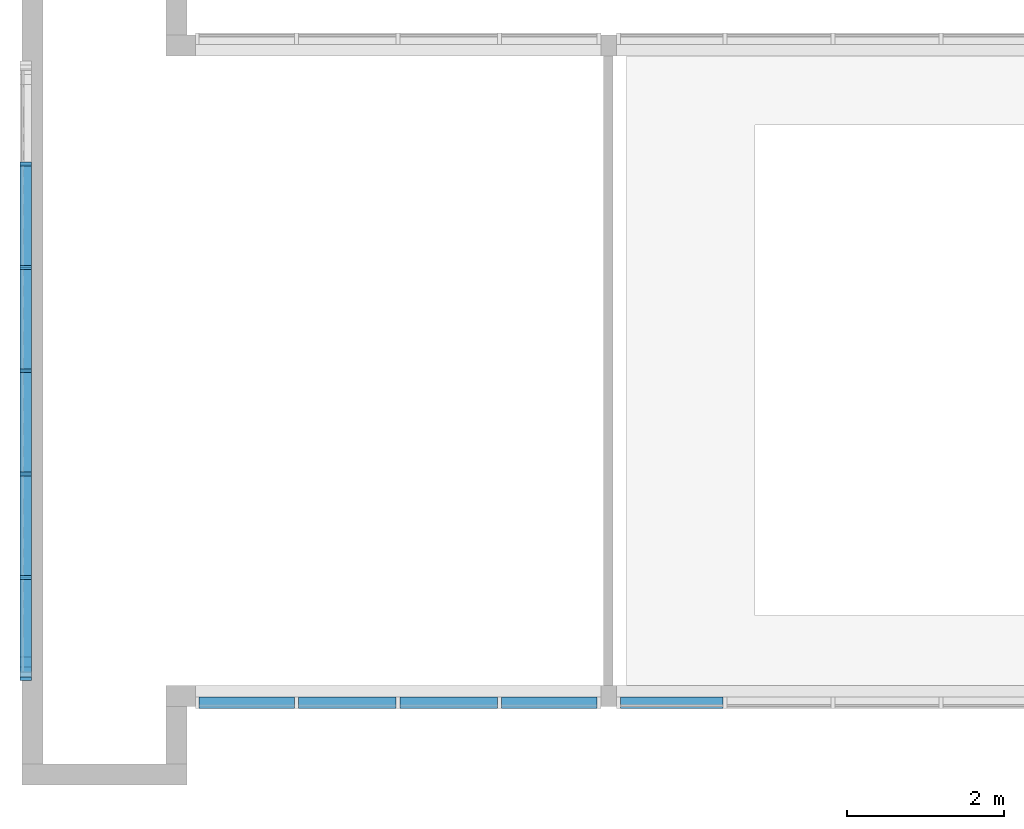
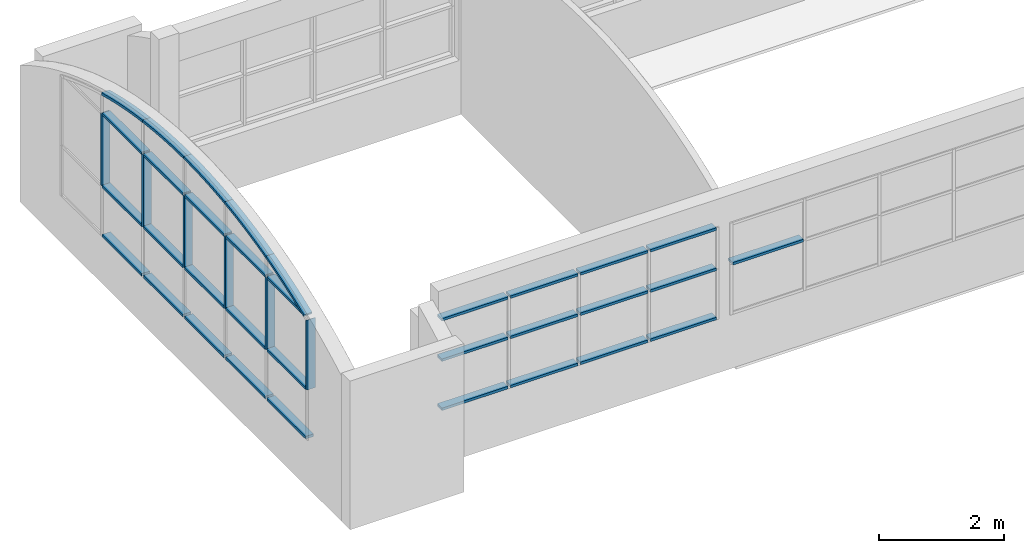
# One storey, part 1 of 14: 39 members, 3 elements without a shape of their own.
"""IFC2X3 building model written with IfcOpenShell, lengths in metres."""

from ifc_helpers import new_model, entity, si_unit, converted_unit, frame, frame_2d, origin, origin_2d_with_axis, place, context, project, spatial, polyline, circle_curve, parameter, trimmed, segment, composite_curve, rectangle, outline, extrude, source, transform, mapped, material, type_object, type_shapes, element, aggregate, save


model = new_model("IFC2X3")

# Units and contexts
model_context = context("Model", 3, precision=1e-09, world=origin())
plan_context = context("Plan", 3, precision=1e-09, world=origin())
ifc_project = project(units=[si_unit("LENGTHUNIT", "METRE"), si_unit("AREAUNIT", "SQUARE_METRE"), si_unit("VOLUMEUNIT", "CUBIC_METRE"), converted_unit("PLANEANGLEUNIT", "DEGREE", entity("IfcRatioMeasure", 0.01745329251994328), si_unit("PLANEANGLEUNIT", "RADIAN"), dimensions=[0, 0, 0, 0, 0, 0, 0]), si_unit("TIMEUNIT", "SECOND")], contexts=[model_context, plan_context])

# Site, building, storey
site_placement = place(None, origin())
site = spatial("IfcSite", under=ifc_project, at=site_placement, Name="Default", CompositionType="ELEMENT")
building_placement = place(site_placement, origin())
building = spatial("IfcBuilding", under=site, at=building_placement, CompositionType="ELEMENT")
storey_placement = place(building_placement, frame((0.0, 0.0, 9.25000000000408)))
storey = spatial("IfcBuildingStorey", under=building, at=storey_placement, Name="Roof - Main", CompositionType="ELEMENT", Elevation=9.25000000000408)

# Curtain wall, members
curtain_wall_1_placement = place(storey_placement, origin())
curtain_wall_1 = element("IfcCurtainWall", 1, at=curtain_wall_1_placement, inside=storey, Name="Curtain Wall:Storefront", ObjectType="Curtain Wall:Storefront")
ifc_material = material(Name="Metal - Aluminium")
member_type_1 = type_object("IfcMemberType", Name="50 x 150mm", PredefinedType="MULLION")
shared_shape_1 = source(origin(), model_context, "Body", "SweptSolid", [
    extrude(rectangle(XDim=0.05, YDim=0.15, at=origin_2d_with_axis()), frame((0.0, 0.0, -1.269395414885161), z_axis=(0.0, 0.0, 1.0), x_axis=(-1.0, 0.0, 0.0)), (0.0, 0.0, 1.0), 1.26939541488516),
])
type_shapes(member_type_1, [shared_shape_1])
member_1_placement = place(storey_placement, frame((-40.99000000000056, 34.30879082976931, 2.053894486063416), z_axis=(0.0, 1.0, 0.0), x_axis=(0.0, 0.0, 1.0)))
member_1 = element("IfcMember", 2, at=member_1_placement, type_object=member_type_1, material=ifc_material, Name="Rectangular Mullion:50 x 150mm:50 x 150mm", ObjectType="50 x 150mm", context=model_context, shape_type="MappedRepresentation", body=[
    mapped(shared_shape_1, transform((0.0, 0.0, 0.0), scale=1.0)),
])
member_2_placement = place(storey_placement, frame((-40.99000000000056, 31.66999999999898, 2.053894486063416), z_axis=(0.0, 1.0, 0.0), x_axis=(0.0, 0.0, 1.0)))
member_2 = element("IfcMember", 3, at=member_2_placement, type_object=member_type_1, material=ifc_material, Name="Rectangular Mullion:50 x 150mm:50 x 150mm", ObjectType="50 x 150mm", context=model_context, shape_type="MappedRepresentation", body=[
    mapped(shared_shape_1, transform((0.0, 0.0, 0.0), scale=1.0)),
])
member_3_placement = place(storey_placement, frame((-40.99000000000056, 34.30879082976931, 3.467), z_axis=(0.0, 1.0, 0.0), x_axis=(0.0, 0.0, 1.0)))
member_3 = element("IfcMember", 4, at=member_3_placement, type_object=member_type_1, material=ifc_material, Name="Rectangular Mullion:50 x 150mm:50 x 150mm", ObjectType="50 x 150mm", context=model_context, shape_type="MappedRepresentation", body=[
    mapped(shared_shape_1, transform((0.0, 0.0, 0.0), scale=1.0)),
])
member_4_placement = place(storey_placement, frame((-40.99000000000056, 30.35060458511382, 2.053894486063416), z_axis=(0.0, 1.0, 0.0), x_axis=(0.0, 0.0, 1.0)))
member_4 = element("IfcMember", 5, at=member_4_placement, type_object=member_type_1, material=ifc_material, Name="Rectangular Mullion:50 x 150mm:50 x 150mm", ObjectType="50 x 150mm", context=model_context, shape_type="MappedRepresentation", body=[
    mapped(shared_shape_1, transform((0.0, 0.0, 0.0), scale=1.0)),
])
member_5_placement = place(storey_placement, frame((-40.99000000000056, 32.98939541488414, 2.053894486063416), z_axis=(0.0, 1.0, 0.0), x_axis=(0.0, 0.0, 1.0)))
member_5 = element("IfcMember", 6, at=member_5_placement, type_object=member_type_1, material=ifc_material, Name="Rectangular Mullion:50 x 150mm:50 x 150mm", ObjectType="50 x 150mm", context=model_context, shape_type="MappedRepresentation", body=[
    mapped(shared_shape_1, transform((0.0, 0.0, 0.0), scale=1.0)),
])
member_6_placement = place(storey_placement, frame((-40.99000000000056, 32.98939541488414, 3.467), z_axis=(0.0, 1.0, 0.0), x_axis=(0.0, 0.0, 1.0)))
member_6 = element("IfcMember", 7, at=member_6_placement, type_object=member_type_1, material=ifc_material, Name="Rectangular Mullion:50 x 150mm:50 x 150mm", ObjectType="50 x 150mm", context=model_context, shape_type="MappedRepresentation", body=[
    mapped(shared_shape_1, transform((0.0, 0.0, 0.0), scale=1.0)),
])
member_7_placement = place(storey_placement, frame((-40.99000000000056, 31.66999999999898, 3.467), z_axis=(0.0, 1.0, 0.0), x_axis=(0.0, 0.0, 1.0)))
member_7 = element("IfcMember", 8, at=member_7_placement, type_object=member_type_1, material=ifc_material, Name="Rectangular Mullion:50 x 150mm:50 x 150mm", ObjectType="50 x 150mm", context=model_context, shape_type="MappedRepresentation", body=[
    mapped(shared_shape_1, transform((0.0, 0.0, 0.0), scale=1.0)),
])
member_8_placement = place(storey_placement, frame((-40.99000000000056, 30.35060458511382, 3.467), z_axis=(0.0, 1.0, 0.0), x_axis=(0.0, 0.0, 1.0)))
member_8 = element("IfcMember", 9, at=member_8_placement, type_object=member_type_1, material=ifc_material, Name="Rectangular Mullion:50 x 150mm:50 x 150mm", ObjectType="50 x 150mm", context=model_context, shape_type="MappedRepresentation", body=[
    mapped(shared_shape_1, transform((0.0, 0.0, 0.0), scale=1.0)),
])
member_type_2 = type_object("IfcMemberType", Name="50 x 150mm", PredefinedType="MULLION")
shared_shape_2 = source(origin(), model_context, "Body", "SweptSolid", [
    extrude(rectangle(XDim=0.05, YDim=0.15, at=origin_2d_with_axis()), frame((0.0, 0.0, -1.413105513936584), z_axis=(0.0, 0.0, 1.0), x_axis=(-1.0, 0.0, 0.0)), (0.0, 0.0, 1.0), 1.413105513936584),
])
type_shapes(member_type_2, [shared_shape_2])
member_9_placement = place(storey_placement, frame((-40.99000000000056, 29.05620917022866, 2.053894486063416), z_axis=(0.0, 0.0, -1.0), x_axis=(0.0, 1.0, 0.0)))
member_9 = element("IfcMember", 10, at=member_9_placement, type_object=member_type_2, material=ifc_material, Name="Rectangular Mullion:50 x 150mm:50 x 150mm", ObjectType="50 x 150mm", context=model_context, shape_type="MappedRepresentation", body=[
    mapped(shared_shape_2, transform((0.0, 0.0, 0.0), scale=1.0)),
])
member_10_placement = place(storey_placement, frame((-40.99000000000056, 30.37560458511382, 2.053894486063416), z_axis=(0.0, 0.0, -1.0), x_axis=(0.0, 1.0, 0.0)))
member_10 = element("IfcMember", 11, at=member_10_placement, type_object=member_type_2, material=ifc_material, Name="Rectangular Mullion:50 x 150mm:50 x 150mm", ObjectType="50 x 150mm", context=model_context, shape_type="MappedRepresentation", body=[
    mapped(shared_shape_2, transform((0.0, 0.0, 0.0), scale=1.0)),
])
member_11_placement = place(storey_placement, frame((-40.99000000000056, 34.33379082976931, 2.053894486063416), z_axis=(0.0, 0.0, -1.0), x_axis=(0.0, 1.0, 0.0)))
member_11 = element("IfcMember", 12, at=member_11_placement, type_object=member_type_2, material=ifc_material, Name="Rectangular Mullion:50 x 150mm:50 x 150mm", ObjectType="50 x 150mm", context=model_context, shape_type="MappedRepresentation", body=[
    mapped(shared_shape_2, transform((0.0, 0.0, 0.0), scale=1.0)),
])
member_12_placement = place(storey_placement, frame((-40.99000000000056, 33.01439541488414, 2.053894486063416), z_axis=(0.0, 0.0, -1.0), x_axis=(0.0, 1.0, 0.0)))
member_12 = element("IfcMember", 13, at=member_12_placement, type_object=member_type_2, material=ifc_material, Name="Rectangular Mullion:50 x 150mm:50 x 150mm", ObjectType="50 x 150mm", context=model_context, shape_type="MappedRepresentation", body=[
    mapped(shared_shape_2, transform((0.0, 0.0, 0.0), scale=1.0)),
])
member_13_placement = place(storey_placement, frame((-40.99000000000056, 31.69499999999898, 2.053894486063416), z_axis=(0.0, 0.0, -1.0), x_axis=(0.0, 1.0, 0.0)))
member_13 = element("IfcMember", 14, at=member_13_placement, type_object=member_type_2, material=ifc_material, Name="Rectangular Mullion:50 x 150mm:50 x 150mm", ObjectType="50 x 150mm", context=model_context, shape_type="MappedRepresentation", body=[
    mapped(shared_shape_2, transform((0.0, 0.0, 0.0), scale=1.0)),
])
member_type_3 = type_object("IfcMemberType", Name="50 x 150mm", PredefinedType="MULLION")
shared_shape_3 = source(origin(), model_context, "Body", "SweptSolid", [
    extrude(rectangle(XDim=0.05, YDim=0.15, at=origin_2d_with_axis()), frame((-0.025, 0.0, -1.269395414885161), z_axis=(0.0, 0.0, 1.0), x_axis=(-1.0, 0.0, 0.0)), (0.0, 0.0, 1.0), 1.26939541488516),
])
type_shapes(member_type_3, [shared_shape_3])
member_14_placement = place(storey_placement, frame((-40.99000000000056, 29.08120917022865, 1.067), z_axis=(0.0, -1.0, 0.0), x_axis=(0.0, 0.0, -1.0)))
member_14 = element("IfcMember", 15, at=member_14_placement, type_object=member_type_3, material=ifc_material, Name="Rectangular Mullion:50 x 150mm:50 x 150mm", ObjectType="50 x 150mm", context=model_context, shape_type="MappedRepresentation", body=[
    mapped(shared_shape_3, transform((0.0, 0.0, 0.0), scale=1.0)),
])
member_15_placement = place(storey_placement, frame((-40.99000000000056, 33.03939541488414, 1.067), z_axis=(0.0, -1.0, 0.0), x_axis=(0.0, 0.0, -1.0)))
member_15 = element("IfcMember", 16, at=member_15_placement, type_object=member_type_3, material=ifc_material, Name="Rectangular Mullion:50 x 150mm:50 x 150mm", ObjectType="50 x 150mm", context=model_context, shape_type="MappedRepresentation", body=[
    mapped(shared_shape_3, transform((0.0, 0.0, 0.0), scale=1.0)),
])
member_16_placement = place(storey_placement, frame((-40.99000000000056, 30.40060458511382, 1.067), z_axis=(0.0, -1.0, 0.0), x_axis=(0.0, 0.0, -1.0)))
member_16 = element("IfcMember", 17, at=member_16_placement, type_object=member_type_3, material=ifc_material, Name="Rectangular Mullion:50 x 150mm:50 x 150mm", ObjectType="50 x 150mm", context=model_context, shape_type="MappedRepresentation", body=[
    mapped(shared_shape_3, transform((0.0, 0.0, 0.0), scale=1.0)),
])
member_17_placement = place(storey_placement, frame((-40.99000000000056, 31.71999999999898, 1.067), z_axis=(0.0, -1.0, 0.0), x_axis=(0.0, 0.0, -1.0)))
member_17 = element("IfcMember", 18, at=member_17_placement, type_object=member_type_3, material=ifc_material, Name="Rectangular Mullion:50 x 150mm:50 x 150mm", ObjectType="50 x 150mm", context=model_context, shape_type="MappedRepresentation", body=[
    mapped(shared_shape_3, transform((0.0, 0.0, 0.0), scale=1.0)),
])

curtain_wall_2_placement = place(storey_placement, origin())
curtain_wall_2 = element("IfcCurtainWall", 19, at=curtain_wall_2_placement, inside=storey, Name="Curtain Wall:Storefront", ObjectType="Curtain Wall:Storefront")
member_type_4 = type_object("IfcMemberType", Name="50 x 150mm", PredefinedType="MULLION")
shared_shape_4 = source(origin(), model_context, "Body", "SweptSolid", [
    extrude(rectangle(XDim=0.05, YDim=0.15, at=origin_2d_with_axis()), frame((0.0, 0.0, -1.220000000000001), z_axis=(0.0, 0.0, 1.0), x_axis=(-1.0, 0.0, 0.0)), (0.0, 0.0, 1.0), 1.22),
])
type_shapes(member_type_4, [shared_shape_4])
member_18_placement = place(storey_placement, frame((-37.55600000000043, 27.45559600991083, 2.053894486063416), z_axis=(1.0, 0.0, 0.0), x_axis=(0.0, 0.0, 1.0)))
member_18 = element("IfcMember", 20, at=member_18_placement, type_object=member_type_4, material=ifc_material, Name="Rectangular Mullion:50 x 150mm:50 x 150mm", ObjectType="50 x 150mm", context=model_context, shape_type="MappedRepresentation", body=[
    mapped(shared_shape_4, transform((0.0, 0.0, 0.0), scale=1.0)),
])
member_19_placement = place(storey_placement, frame((-33.69600000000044, 27.45559600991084, 2.053894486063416), z_axis=(1.0, 0.0, 0.0), x_axis=(0.0, 0.0, 1.0)))
member_19 = element("IfcMember", 21, at=member_19_placement, type_object=member_type_4, material=ifc_material, Name="Rectangular Mullion:50 x 150mm:50 x 150mm", ObjectType="50 x 150mm", context=model_context, shape_type="MappedRepresentation", body=[
    mapped(shared_shape_4, transform((0.0, 0.0, 0.0), scale=1.0)),
])
member_type_5 = type_object("IfcMemberType", Name="50 x 150mm", PredefinedType="MULLION")
shared_shape_5 = source(origin(), model_context, "Body", "SweptSolid", [
    extrude(rectangle(XDim=0.05, YDim=0.15, at=origin_2d_with_axis()), frame((-0.025, 0.0, -1.220000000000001), z_axis=(0.0, 0.0, 1.0), x_axis=(-1.0, 0.0, 0.0)), (0.0, 0.0, 1.0), 1.22),
])
type_shapes(member_type_5, [shared_shape_5])
member_20_placement = place(storey_placement, frame((-37.55600000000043, 27.45559600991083, 2.867), z_axis=(1.0, 0.0, 0.0), x_axis=(0.0, 0.0, 1.0)))
member_20 = element("IfcMember", 22, at=member_20_placement, type_object=member_type_5, material=ifc_material, Name="Rectangular Mullion:50 x 150mm:50 x 150mm", ObjectType="50 x 150mm", context=model_context, shape_type="MappedRepresentation", body=[
    mapped(shared_shape_5, transform((0.0, 0.0, 0.0), scale=1.0)),
])
member_21_placement = place(storey_placement, frame((-33.69600000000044, 27.45559600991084, 2.867), z_axis=(1.0, 0.0, 0.0), x_axis=(0.0, 0.0, 1.0)))
member_21 = element("IfcMember", 23, at=member_21_placement, type_object=member_type_5, material=ifc_material, Name="Rectangular Mullion:50 x 150mm:50 x 150mm", ObjectType="50 x 150mm", context=model_context, shape_type="MappedRepresentation", body=[
    mapped(shared_shape_5, transform((0.0, 0.0, 0.0), scale=1.0)),
])
member_type_6 = type_object("IfcMemberType", Name="50 x 150mm", PredefinedType="MULLION")
shared_shape_6 = source(origin(), model_context, "Body", "SweptSolid", [
    extrude(rectangle(XDim=0.05, YDim=0.15, at=origin_2d_with_axis()), frame((-0.025, 0.0, -1.219999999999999), z_axis=(0.0, 0.0, 1.0), x_axis=(-1.0, 0.0, 0.0)), (0.0, 0.0, 1.0), 1.22),
])
type_shapes(member_type_6, [shared_shape_6])
member_22_placement = place(storey_placement, frame((-34.91600000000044, 27.45559600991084, 1.067), z_axis=(-1.0, 0.0, 0.0), x_axis=(0.0, 0.0, -1.0)))
member_22 = element("IfcMember", 24, at=member_22_placement, type_object=member_type_6, material=ifc_material, Name="Rectangular Mullion:50 x 150mm:50 x 150mm", ObjectType="50 x 150mm", context=model_context, shape_type="MappedRepresentation", body=[
    mapped(shared_shape_6, transform((0.0, 0.0, 0.0), scale=1.0)),
])
member_23_placement = place(storey_placement, frame((-38.77600000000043, 27.45559600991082, 1.067), z_axis=(-1.0, 0.0, 0.0), x_axis=(0.0, 0.0, -1.0)))
member_23 = element("IfcMember", 25, at=member_23_placement, type_object=member_type_6, material=ifc_material, Name="Rectangular Mullion:50 x 150mm:50 x 150mm", ObjectType="50 x 150mm", context=model_context, shape_type="MappedRepresentation", body=[
    mapped(shared_shape_6, transform((0.0, 0.0, 0.0), scale=1.0)),
])
member_type_7 = type_object("IfcMemberType", Name="50 x 150mm", PredefinedType="MULLION")
shared_shape_7 = source(origin(), model_context, "Body", "SweptSolid", [
    extrude(rectangle(XDim=0.05, YDim=0.15, at=origin_2d_with_axis()), frame((0.0, 0.0, -1.245000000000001), z_axis=(0.0, 0.0, 1.0), x_axis=(-1.0, 0.0, 0.0)), (0.0, 0.0, 1.0), 1.245),
])
type_shapes(member_type_7, [shared_shape_7])
member_24_placement = place(storey_placement, frame((-36.26100000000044, 27.45559600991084, 2.053894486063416), z_axis=(1.0, 0.0, 0.0), x_axis=(0.0, 0.0, 1.0)))
member_24 = element("IfcMember", 26, at=member_24_placement, type_object=member_type_7, material=ifc_material, Name="Rectangular Mullion:50 x 150mm:50 x 150mm", ObjectType="50 x 150mm", context=model_context, shape_type="MappedRepresentation", body=[
    mapped(shared_shape_7, transform((0.0, 0.0, 0.0), scale=1.0)),
])
member_25_placement = place(storey_placement, frame((-34.96600000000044, 27.45559600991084, 2.053894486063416), z_axis=(1.0, 0.0, 0.0), x_axis=(0.0, 0.0, 1.0)))
member_25 = element("IfcMember", 27, at=member_25_placement, type_object=member_type_7, material=ifc_material, Name="Rectangular Mullion:50 x 150mm:50 x 150mm", ObjectType="50 x 150mm", context=model_context, shape_type="MappedRepresentation", body=[
    mapped(shared_shape_7, transform((0.0, 0.0, 0.0), scale=1.0)),
])

# Member
member_type_8 = type_object("IfcMemberType", Name="50 x 150mm", PredefinedType="MULLION")
shared_shape_8 = source(origin(), model_context, "Body", "SweptSolid", [
    extrude(rectangle(XDim=0.05, YDim=0.15, at=origin_2d_with_axis()), frame((0.0, 0.0, -1.244395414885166), z_axis=(0.0, 0.0, 1.0), x_axis=(-1.0, 0.0, 0.0)), (0.0, 0.0, 1.0), 1.244395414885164),
])
type_shapes(member_type_8, [shared_shape_8])
member_26_placement = place(storey_placement, frame((-40.99000000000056, 29.03120917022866, 2.053894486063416), z_axis=(0.0, 1.0, 0.0), x_axis=(0.0, 0.0, 1.0)))
member_26 = element("IfcMember", 28, at=member_26_placement, type_object=member_type_8, material=ifc_material, Name="Rectangular Mullion:50 x 150mm:50 x 150mm", ObjectType="50 x 150mm", context=model_context, shape_type="MappedRepresentation", body=[
    mapped(shared_shape_8, transform((0.0, 0.0, 0.0), scale=1.0)),
])

# Curtain wall, member
curtain_wall_3_placement = place(storey_placement, origin())
curtain_wall_3 = element("IfcCurtainWall", 29, at=curtain_wall_3_placement, inside=storey, Name="Curtain Wall:Storefront", ObjectType="Curtain Wall:Storefront")
member_type_9 = type_object("IfcMemberType", Name="50 x 150mm", PredefinedType="MULLION")
shared_shape_9 = source(origin(), model_context, "Body", "SweptSolid", [
    extrude(rectangle(XDim=0.05, YDim=0.15, at=origin_2d_with_axis()), frame((0.0, 0.0, -1.305999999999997), z_axis=(0.0, 0.0, 1.0), x_axis=(-1.0, 0.0, 0.0)), (0.0, 0.0, 1.0), 1.305999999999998),
])
type_shapes(member_type_9, [shared_shape_9])
member_27_placement = place(storey_placement, frame((-32.08800000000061, 27.45559600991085, 2.053894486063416), z_axis=(1.0, 0.0, 0.0), x_axis=(0.0, 0.0, 1.0)))
member_27 = element("IfcMember", 30, at=member_27_placement, type_object=member_type_9, material=ifc_material, Name="Rectangular Mullion:50 x 150mm:50 x 150mm", ObjectType="50 x 150mm", context=model_context, shape_type="MappedRepresentation", body=[
    mapped(shared_shape_9, transform((0.0, 0.0, 0.0), scale=1.0)),
])
aggregate(curtain_wall_3, [member_27])

# Member
member_type_10 = type_object("IfcMemberType", Name="50 x 150mm", PredefinedType="MULLION")
shared_shape_10 = source(origin(), model_context, "Body", "SweptSolid", [
    extrude(rectangle(XDim=0.05, YDim=0.15, at=origin_2d_with_axis()), frame((-0.025, 0.0, -1.245000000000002), z_axis=(0.0, 0.0, 1.0), x_axis=(-1.0, 0.0, 0.0)), (0.0, 0.0, 1.0), 1.245),
])
type_shapes(member_type_10, [shared_shape_10])
member_28_placement = place(storey_placement, frame((-37.50600000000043, 27.45559600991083, 1.067), z_axis=(-1.0, 0.0, 0.0), x_axis=(0.0, 0.0, -1.0)))
member_28 = element("IfcMember", 31, at=member_28_placement, type_object=member_type_10, material=ifc_material, Name="Rectangular Mullion:50 x 150mm:50 x 150mm", ObjectType="50 x 150mm", context=model_context, shape_type="MappedRepresentation", body=[
    mapped(shared_shape_10, transform((0.0, 0.0, 0.0), scale=1.0)),
])

member_29_placement = place(storey_placement, frame((-36.21100000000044, 27.45559600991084, 1.067), z_axis=(-1.0, 0.0, 0.0), x_axis=(0.0, 0.0, -1.0)))
member_29 = element("IfcMember", 32, at=member_29_placement, type_object=member_type_10, material=ifc_material, Name="Rectangular Mullion:50 x 150mm:50 x 150mm", ObjectType="50 x 150mm", context=model_context, shape_type="MappedRepresentation", body=[
    mapped(shared_shape_10, transform((0.0, 0.0, 0.0), scale=1.0)),
])

member_type_11 = type_object("IfcMemberType", Name="50 x 150mm", PredefinedType="MULLION")
shared_shape_11 = source(origin(), model_context, "Body", "SweptSolid", [
    extrude(rectangle(XDim=0.05, YDim=0.15, at=origin_2d_with_axis()), frame((-0.025, 0.0, -1.245000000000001), z_axis=(0.0, 0.0, 1.0), x_axis=(-1.0, 0.0, 0.0)), (0.0, 0.0, 1.0), 1.245),
])
type_shapes(member_type_11, [shared_shape_11])
member_30_placement = place(storey_placement, frame((-36.26100000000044, 27.45559600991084, 2.867), z_axis=(1.0, 0.0, 0.0), x_axis=(0.0, 0.0, 1.0)))
member_30 = element("IfcMember", 33, at=member_30_placement, type_object=member_type_11, material=ifc_material, Name="Rectangular Mullion:50 x 150mm:50 x 150mm", ObjectType="50 x 150mm", context=model_context, shape_type="MappedRepresentation", body=[
    mapped(shared_shape_11, transform((0.0, 0.0, 0.0), scale=1.0)),
])

member_31_placement = place(storey_placement, frame((-34.96600000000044, 27.45559600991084, 2.867), z_axis=(1.0, 0.0, 0.0), x_axis=(0.0, 0.0, 1.0)))
member_31 = element("IfcMember", 34, at=member_31_placement, type_object=member_type_11, material=ifc_material, Name="Rectangular Mullion:50 x 150mm:50 x 150mm", ObjectType="50 x 150mm", context=model_context, shape_type="MappedRepresentation", body=[
    mapped(shared_shape_11, transform((0.0, 0.0, 0.0), scale=1.0)),
])

aggregate(curtain_wall_2, [member_20, member_18, member_22, member_28, member_21, member_24, member_25, member_29, member_23, member_19, member_30, member_31])

member_type_12 = type_object("IfcMemberType", Name="50 x 150mm", PredefinedType="MULLION")
shared_shape_12 = source(origin(), model_context, "Body", "SweptSolid", [
    extrude(rectangle(XDim=0.05, YDim=0.15, at=origin_2d_with_axis()), frame((-0.025, 0.0, -1.244395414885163), z_axis=(0.0, 0.0, 1.0), x_axis=(-1.0, 0.0, 0.0)), (0.0, 0.0, 1.0), 1.244395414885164),
])
type_shapes(member_type_12, [shared_shape_12])
member_32_placement = place(storey_placement, frame((-40.99000000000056, 27.7868137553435, 1.067), z_axis=(0.0, -1.0, 0.0), x_axis=(0.0, 0.0, -1.0)))
member_32 = element("IfcMember", 35, at=member_32_placement, type_object=member_type_12, material=ifc_material, Name="Rectangular Mullion:50 x 150mm:50 x 150mm", ObjectType="50 x 150mm", context=model_context, shape_type="MappedRepresentation", body=[
    mapped(shared_shape_12, transform((0.0, 0.0, 0.0), scale=1.0)),
])

member_type_13 = type_object("IfcMemberType", Name="50 x 150mm", PredefinedType="MULLION")
shared_shape_13 = source(origin(), model_context, "Body", "SweptSolid", [
    extrude(outline(polyline([(-0.6938774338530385, -0.025), (0.6772773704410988, -0.025), (0.6772773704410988, 0.025), (-0.6606773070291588, 0.025), (-0.6938774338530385, -0.025)])), frame((-0.025, -0.07499999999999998, -0.6938774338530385), z_axis=(0.0, 1.0, 0.0), x_axis=(0.0, 0.0, -1.0)), (0.0, 0.0, 1.0), 0.15),
])
type_shapes(member_type_13, [shared_shape_13])
member_33_placement = place(storey_placement, frame((-40.99000000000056, 27.73681375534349, 3.425049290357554), z_axis=(0.0, 0.0, 1.0), x_axis=(0.0, -1.0, 0.0)))
member_33 = element("IfcMember", 36, at=member_33_placement, type_object=member_type_13, material=ifc_material, Name="Rectangular Mullion:50 x 150mm:50 x 150mm", ObjectType="50 x 150mm", context=model_context, shape_type="MappedRepresentation", body=[
    mapped(shared_shape_13, transform((0.0, 0.0, 0.0), scale=1.0)),
])

member_type_14 = type_object("IfcMemberType", Name="50 x 150mm", PredefinedType="MULLION")
shared_shape_14 = source(origin(), model_context, "Body", "SweptSolid", [
    extrude(outline(composite_curve([segment(polyline([(-0.06539377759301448, -0.6398536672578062), (-0.01539377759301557, -0.6398536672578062)]), True, "CONTINUOUS"), segment(trimmed(circle_curve(frame_2d((10.13553918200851, -0.6398536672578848), x_axis=(-0.9920609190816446, 0.1257582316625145)), 10.15093295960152), [parameter(3.562221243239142e-13)], [parameter(7.224544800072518)], True, "PARAMETER"), False, "CONTINUOUS"), segment(polyline([(0.06519530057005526, 0.6367097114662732), (0.01559225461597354, 0.6429976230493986)]), True, "CONTINUOUS"), segment(trimmed(circle_curve(frame_2d((10.13553918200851, -0.6398536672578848), x_axis=(-0.9920609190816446, 0.1257582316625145)), 10.20093295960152), [parameter(3.562221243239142e-13)], [parameter(7.224544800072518)], True, "PARAMETER"), True, "CONTINUOUS")], self_intersect=False)), frame((-0.06539377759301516, -0.07499999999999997, -0.6398536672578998), z_axis=(0.0, 1.0, 0.0), x_axis=(-0.9920609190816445, 0.0, 0.1257582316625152)), (0.0, 0.0, 1.0), 0.15),
])
type_shapes(member_type_14, [shared_shape_14])
member_34_placement = place(storey_placement, frame((-40.99000000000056, 29.05620917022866, 3.877079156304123), z_axis=(0.0, 0.9659627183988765, 0.2586813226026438), x_axis=(0.0, -0.2586813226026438, 0.9659627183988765)))
member_34 = element("IfcMember", 37, at=member_34_placement, type_object=member_type_14, material=ifc_material, Name="Rectangular Mullion:50 x 150mm:50 x 150mm", ObjectType="50 x 150mm", context=model_context, shape_type="MappedRepresentation", body=[
    mapped(shared_shape_14, transform((0.0, 0.0, 0.0), scale=1.0)),
])

member_type_15 = type_object("IfcMemberType", Name="50 x 150mm", PredefinedType="MULLION")
shared_shape_15 = source(origin(), model_context, "Body", "SweptSolid", [
    extrude(outline(composite_curve([segment(polyline([(-0.06773780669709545, -0.6580809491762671), (-0.01773780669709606, -0.658080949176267)]), True, "CONTINUOUS"), segment(trimmed(circle_curve(frame_2d((10.13319515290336, -0.6580809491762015), x_axis=(-0.9916002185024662, 0.1293406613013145)), 10.15093295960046), [parameter(3.562221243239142e-13)], [parameter(7.431493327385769)], True, "PARAMETER"), False, "CONTINUOUS"), segment(polyline([(0.06752781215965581, 0.6548474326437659), (0.01794780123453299, 0.6613144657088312)]), True, "CONTINUOUS"), segment(trimmed(circle_curve(frame_2d((10.13319515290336, -0.6580809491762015), x_axis=(-0.9916002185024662, 0.1293406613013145)), 10.20093295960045), [parameter(3.562221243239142e-13)], [parameter(7.431493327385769)], True, "PARAMETER"), True, "CONTINUOUS")], self_intersect=False)), frame((-0.06773780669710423, -0.07499999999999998, -0.6580809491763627), z_axis=(0.0, 1.0, 0.0), x_axis=(-0.9916002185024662, 0.0, 0.1293406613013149)), (0.0, 0.0, 1.0), 0.15),
])
type_shapes(member_type_15, [shared_shape_15])
member_35_placement = place(storey_placement, frame((-40.99000000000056, 33.01439541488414, 4.138605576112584), z_axis=(0.0, 0.9916002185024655, -0.1293406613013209), x_axis=(0.0, 0.1293406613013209, 0.9916002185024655)))
member_35 = element("IfcMember", 38, at=member_35_placement, type_object=member_type_15, material=ifc_material, Name="Rectangular Mullion:50 x 150mm:50 x 150mm", ObjectType="50 x 150mm", context=model_context, shape_type="MappedRepresentation", body=[
    mapped(shared_shape_15, transform((0.0, 0.0, 0.0), scale=1.0)),
])

member_type_16 = type_object("IfcMemberType", Name="50 x 150mm", PredefinedType="MULLION")
shared_shape_16 = source(origin(), model_context, "Body", "SweptSolid", [
    extrude(outline(composite_curve([segment(polyline([(-0.06923042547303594, -0.66942476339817), (-0.01923042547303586, -0.6694247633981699)]), True, "CONTINUOUS"), segment(trimmed(circle_curve(frame_2d((10.13170253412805, -0.6694247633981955), x_axis=(-0.9913068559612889, 0.1315701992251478)), 10.15093295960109), [parameter(3.562221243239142e-13)], [parameter(7.560337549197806)], True, "PARAMETER"), False, "CONTINUOUS"), segment(polyline([(0.06901309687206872, 0.6661355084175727), (0.01944775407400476, 0.6727140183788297)]), True, "CONTINUOUS"), segment(trimmed(circle_curve(frame_2d((10.13170253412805, -0.6694247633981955), x_axis=(-0.9913068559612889, 0.1315701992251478)), 10.20093295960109), [parameter(3.562221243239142e-13)], [parameter(7.560337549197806)], True, "PARAMETER"), True, "CONTINUOUS")], self_intersect=False)), frame((-0.06923042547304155, -0.07499999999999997, -0.6694247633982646), z_axis=(0.0, 1.0, 0.0), x_axis=(-0.9913068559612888, 0.0, 0.1315701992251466)), (0.0, 0.0, 1.0), 0.15),
])
type_shapes(member_type_16, [shared_shape_16])
member_36_placement = place(storey_placement, frame((-40.99000000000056, 30.37560458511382, 4.138605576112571), z_axis=(0.0, 0.9916002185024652, 0.1293406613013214), x_axis=(0.0, -0.1293406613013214, 0.9916002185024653)))
member_36 = element("IfcMember", 39, at=member_36_placement, type_object=member_type_16, material=ifc_material, Name="Rectangular Mullion:50 x 150mm:50 x 150mm", ObjectType="50 x 150mm", context=model_context, shape_type="MappedRepresentation", body=[
    mapped(shared_shape_16, transform((0.0, 0.0, 0.0), scale=1.0)),
])

member_type_17 = type_object("IfcMemberType", Name="50 x 150mm", PredefinedType="MULLION")
shared_shape_17 = source(origin(), model_context, "Body", "SweptSolid", [
    extrude(outline(composite_curve([segment(polyline([(-0.5291810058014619, -0.02500000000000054), (0.465752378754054, -0.02500000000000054)]), True, "CONTINUOUS"), segment(trimmed(circle_curve(frame_2d((-3.192971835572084, 9.443641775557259), x_axis=(0.2586813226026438, -0.9659627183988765)), 10.15093295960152), [parameter(6.134917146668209)], [parameter(6.904564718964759)], True, "PARAMETER"), True, "CONTINUOUS"), segment(polyline([(0.5926096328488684, 0.02499999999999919), (-0.5291810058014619, 0.02499999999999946)]), True, "CONTINUOUS"), segment(polyline([(-0.5291810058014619, 0.02499999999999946), (-0.5291810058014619, -0.02500000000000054)]), True, "CONTINUOUS")], self_intersect=False)), frame((0.0, -0.07499999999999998, -0.5291810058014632), z_axis=(0.0, 1.0, 0.0), x_axis=(0.0, 0.0, -1.0)), (0.0, 0.0, 1.0), 0.15),
])
type_shapes(member_type_17, [shared_shape_17])
member_37_placement = place(storey_placement, frame((-40.99000000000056, 29.03120917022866, 3.467), z_axis=(0.0, 1.0, 0.0), x_axis=(0.0, 0.0, 1.0)))
member_37 = element("IfcMember", 40, at=member_37_placement, type_object=member_type_17, material=ifc_material, Name="Rectangular Mullion:50 x 150mm:50 x 150mm", ObjectType="50 x 150mm", context=model_context, shape_type="MappedRepresentation", body=[
    mapped(shared_shape_17, transform((0.0, 0.0, 0.0), scale=1.0)),
])

member_type_18 = type_object("IfcMemberType", Name="50 x 150mm", PredefinedType="MULLION")
shared_shape_18 = source(origin(), model_context, "Body", "SweptSolid", [
    extrude(outline(composite_curve([segment(polyline([(-0.06773780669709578, -0.6580809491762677), (-0.01773780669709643, -0.6580809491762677)]), True, "CONTINUOUS"), segment(trimmed(circle_curve(frame_2d((10.13319515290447, -0.6580809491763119), x_axis=(-0.9916002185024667, 0.1293406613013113)), 10.15093295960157), [parameter(3.562221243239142e-13)], [parameter(7.431493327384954)], True, "PARAMETER"), False, "CONTINUOUS"), segment(polyline([(0.06752781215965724, 0.6548474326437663), (0.01794780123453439, 0.6613144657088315)]), True, "CONTINUOUS"), segment(trimmed(circle_curve(frame_2d((10.13319515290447, -0.6580809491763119), x_axis=(-0.9916002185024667, 0.1293406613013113)), 10.20093295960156), [parameter(3.562221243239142e-13)], [parameter(7.431493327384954)], True, "PARAMETER"), True, "CONTINUOUS")], self_intersect=False)), frame((-0.06773780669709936, -0.07499999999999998, -0.6580809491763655), z_axis=(0.0, 1.0, 0.0), x_axis=(-0.9916002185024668, 0.0, 0.1293406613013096)), (0.0, 0.0, 1.0), 0.15),
])
type_shapes(member_type_18, [shared_shape_18])
member_38_placement = place(storey_placement, frame((-40.99000000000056, 31.69499999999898, 4.224291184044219), z_axis=(0.0, 1.0, 0.0), x_axis=(0.0, 0.0, 1.0)))
member_38 = element("IfcMember", 41, at=member_38_placement, type_object=member_type_18, material=ifc_material, Name="Rectangular Mullion:50 x 150mm:50 x 150mm", ObjectType="50 x 150mm", context=model_context, shape_type="MappedRepresentation", body=[
    mapped(shared_shape_18, transform((0.0, 0.0, 0.0), scale=1.0)),
])

member_type_19 = type_object("IfcMemberType", Name="50 x 150mm", PredefinedType="MULLION")
shared_shape_19 = source(origin(), model_context, "Body", "SweptSolid", [
    extrude(outline(composite_curve([segment(polyline([(-0.06923042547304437, -0.6694247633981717), (-0.01923042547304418, -0.6694247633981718)]), True, "CONTINUOUS"), segment(trimmed(circle_curve(frame_2d((10.13170253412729, -0.6694247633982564), x_axis=(-0.9913068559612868, 0.1315701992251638)), 10.15093295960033), [parameter(3.562221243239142e-13)], [parameter(7.560337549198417)], True, "PARAMETER"), False, "CONTINUOUS"), segment(polyline([(0.06901309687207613, 0.6661355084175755), (0.01944775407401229, 0.6727140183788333)]), True, "CONTINUOUS"), segment(trimmed(circle_curve(frame_2d((10.13170253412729, -0.6694247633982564), x_axis=(-0.9913068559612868, 0.1315701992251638)), 10.20093295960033), [parameter(3.562221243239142e-13)], [parameter(7.560337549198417)], True, "PARAMETER"), True, "CONTINUOUS")], self_intersect=False)), frame((-0.06923042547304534, -0.07499999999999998, -0.6694247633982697), z_axis=(0.0, 1.0, 0.0), x_axis=(-0.9913068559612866, 0.0, 0.1315701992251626)), (0.0, 0.0, 1.0), 0.1499999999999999),
])
type_shapes(member_type_19, [shared_shape_19])
member_39_placement = place(storey_placement, frame((-40.99000000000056, 34.33379082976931, 3.877079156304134), z_axis=(0.0, 0.9659627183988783, -0.2586813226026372), x_axis=(0.0, 0.2586813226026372, 0.9659627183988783)))
member_39 = element("IfcMember", 42, at=member_39_placement, type_object=member_type_19, material=ifc_material, Name="Rectangular Mullion:50 x 150mm:50 x 150mm", ObjectType="50 x 150mm", context=model_context, shape_type="MappedRepresentation", body=[
    mapped(shared_shape_19, transform((0.0, 0.0, 0.0), scale=1.0)),
])

aggregate(curtain_wall_1, [member_9, member_1, member_2, member_3, member_4, member_32, member_35, member_38, member_10, member_11, member_33, member_12, member_14, member_15, member_13, member_39, member_5, member_16, member_34, member_17, member_26, member_36, member_6, member_7, member_37, member_8])

save(model, "model.ifc")
